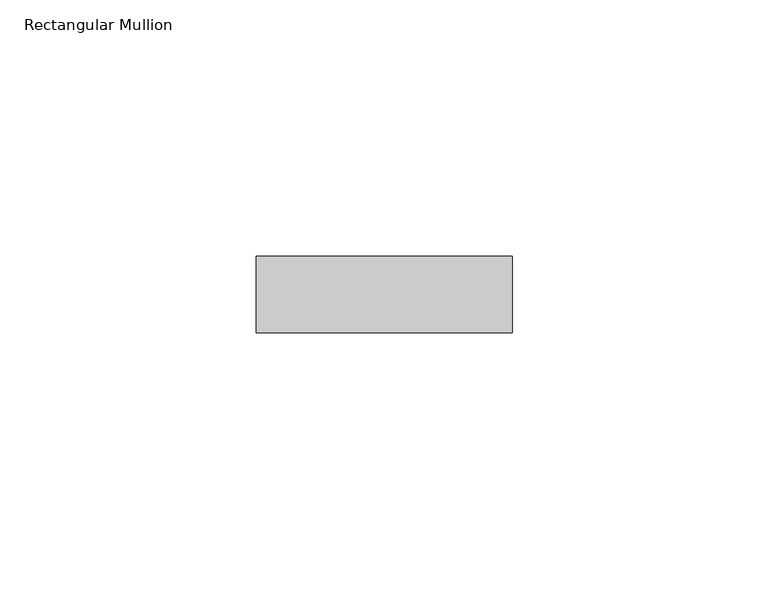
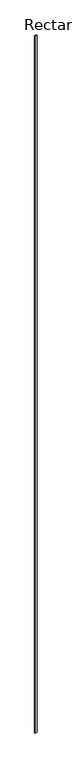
"""IFC4 building model written with IfcOpenShell, lengths in millimetres: member geometry, Rectangular Mullion : Ripa."""

from ifc_helpers import new_model, si_unit, frame, origin, place, context, project, spatial, polyline, outline, extrude, source, transform, mapped, element, save


def rectangular_mullion_b1541f78(model_context):
    return source(origin(), model_context, "Body", "SweptSolid", [
        extrude(outline(polyline([(0.0, -75.0), (-50.0, -75.0), (-50.0, -60.0), (0.0, -60.0), (0.0, -75.0)])), frame((0.0, 0.0, -19200.0), z_axis=(0.0, 0.0, 1.0), x_axis=(1.0, 0.0, 0.0)), (0.0, 0.0, 1.0), 19200.0),
    ])


if __name__ == "__main__":
    model = new_model("IFC4")
    model_context = context("Model", 3, world=origin())
    ifc_project = project(units=[si_unit("LENGTHUNIT", "METRE", prefix="MILLI")], contexts=[model_context])
    site = spatial("IfcSite", under=ifc_project)
    building = spatial("IfcBuilding", under=site)
    placement = place(None, origin())
    rectangular_mullion_shape = rectangular_mullion_b1541f78(model_context)
    element("IfcMember", 1, ObjectType="Rectangular Mullion : Ripa", at=placement, inside=building, context=model_context, shape_type="MappedRepresentation", body=[
        mapped(rectangular_mullion_shape, transform((0.0, 0.0, 0.0), x_axis=(1.0, 0.0, 0.0), y_axis=(0.0, 1.0, 0.0), z_axis=(0.0, 0.0, 1.0))),
    ])
    save(model, "model.ifc")
